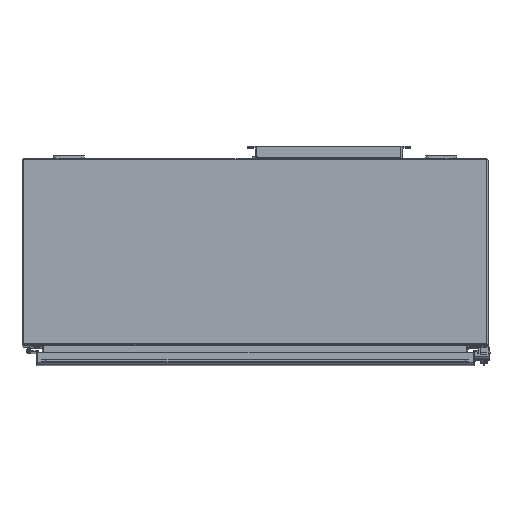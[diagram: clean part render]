
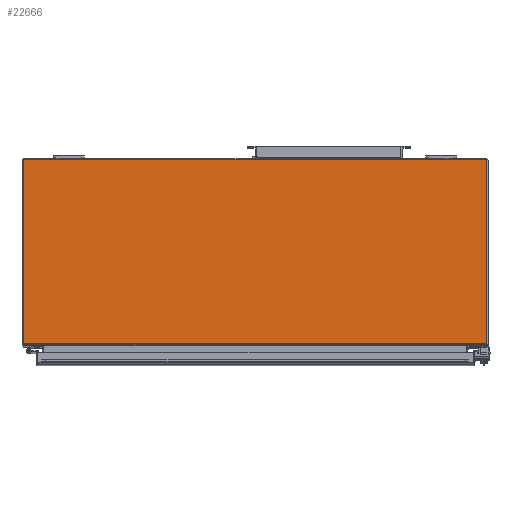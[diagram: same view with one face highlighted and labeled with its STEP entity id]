
A CAD part, top view. The second image highlights one B-rep face of the part: STEP entity #22666.
In plain terms, the highlighted planar face has unit normal (0, 0, 1) as drawn and (0, -1, 0) by its records, which use the part's own axes.
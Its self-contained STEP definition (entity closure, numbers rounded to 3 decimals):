
#2845=LINE('',#40909,#4886);
#2847=LINE('',#40913,#4888);
#2851=LINE('',#40922,#4892);
#2854=LINE('',#40927,#4895);
#4886=VECTOR('',#30634,1000.);
#4888=VECTOR('',#30640,1000.);
#4892=VECTOR('',#30646,1000.);
#4895=VECTOR('',#30653,1000.);
#11558=ORIENTED_EDGE('',*,*,#14977,.T.);
#11559=ORIENTED_EDGE('',*,*,#14968,.T.);
#11560=ORIENTED_EDGE('',*,*,#14974,.T.);
#11561=ORIENTED_EDGE('',*,*,#14970,.T.);
#14968=EDGE_CURVE('',#17149,#17152,#2845,.T.);
#14970=EDGE_CURVE('',#17153,#17154,#2847,.T.);
#14974=EDGE_CURVE('',#17152,#17153,#2851,.T.);
#14977=EDGE_CURVE('',#17154,#17149,#2854,.T.);
#17149=VERTEX_POINT('',#40843);
#17152=VERTEX_POINT('',#40902);
#17153=VERTEX_POINT('',#40914);
#17154=VERTEX_POINT('',#40915);
#19347=EDGE_LOOP('',(#11558,#11559,#11560,#11561));
#20714=FACE_BOUND('',#19347,.T.);
#21479=PLANE('',#24786);
#22666=ADVANCED_FACE('',(#20714),#21479,.T.);
#24786=AXIS2_PLACEMENT_3D('',#40928,#30654,#30655);
#30634=DIRECTION('',(-1.,0.,0.));
#30640=DIRECTION('',(1.,0.,0.));
#30646=DIRECTION('',(0.,0.,-1.));
#30653=DIRECTION('',(0.,0.,1.));
#30654=DIRECTION('',(0.,-1.,0.));
#30655=DIRECTION('',(0.,0.,-1.));
#40843=CARTESIAN_POINT('',(379.171,0.,149.657));
#40902=CARTESIAN_POINT('',(-379.171,0.,149.657));
#40909=CARTESIAN_POINT('',(379.171,0.,149.657));
#40913=CARTESIAN_POINT('',(-379.171,0.,-150.571));
#40914=CARTESIAN_POINT('',(-379.171,0.,-150.571));
#40915=CARTESIAN_POINT('',(379.171,0.,-150.571));
#40922=CARTESIAN_POINT('',(-379.171,0.,150.571));
#40927=CARTESIAN_POINT('',(379.171,0.,-150.571));
#40928=CARTESIAN_POINT('',(-379.171,0.,-150.571));
